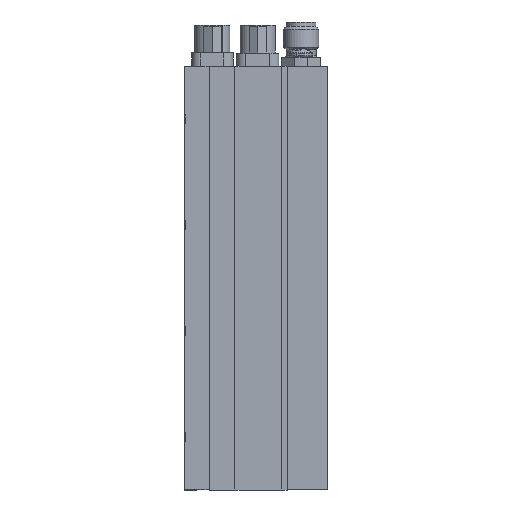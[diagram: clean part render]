
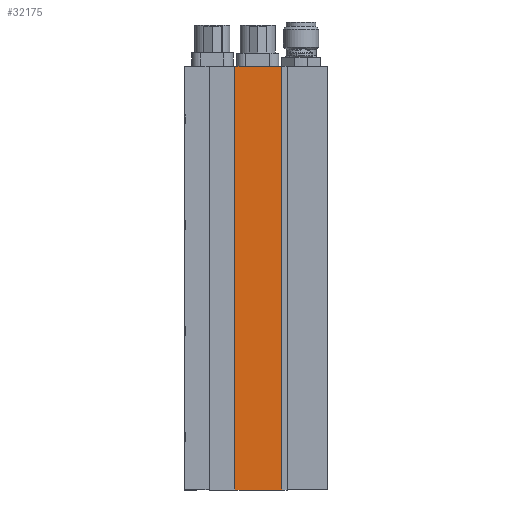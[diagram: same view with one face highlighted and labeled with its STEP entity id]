
A CAD part, left-side view. The second image highlights one B-rep face of the part: STEP entity #32175.
In plain terms, the highlighted planar face has unit normal (-1, 0, 0).
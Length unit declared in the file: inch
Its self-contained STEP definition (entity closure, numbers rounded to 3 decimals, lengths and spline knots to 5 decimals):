
#1403 = LINE ( 'NONE', #48669, #18389 ) ;
#2455 = LINE ( 'NONE', #76217, #36441 ) ;
#2987 = LINE ( 'NONE', #78181, #19964 ) ;
#3748 = DIRECTION ( 'NONE',  ( 0., -1., 0. ) ) ;
#8670 = VERTEX_POINT ( 'NONE', #47715 ) ;
#9337 = LINE ( 'NONE', #90628, #45625 ) ;
#10450 = FACE_OUTER_BOUND ( 'NONE', #41457, .T. ) ;
#12377 = ORIENTED_EDGE ( 'NONE', *, *, #90022, .F. ) ;
#17575 = CARTESIAN_POINT ( 'NONE',  ( -1., 0., 1.5 ) ) ;
#18389 = VECTOR ( 'NONE', #27238, 39.37008 ) ;
#19674 = VERTEX_POINT ( 'NONE', #83702 ) ;
#19964 = VECTOR ( 'NONE', #85437, 39.37008 ) ;
#25488 = DIRECTION ( 'NONE',  ( 0., -1., 0. ) ) ;
#27238 = DIRECTION ( 'NONE',  ( 0., 0., 1. ) ) ;
#27941 = PLANE ( 'NONE',  #28585 ) ;
#28585 = AXIS2_PLACEMENT_3D ( 'NONE', #35179, #42401, #93187 ) ;
#29637 = EDGE_CURVE ( 'NONE', #8670, #19674, #2987, .T. ) ;
#32175 = ADVANCED_FACE ( 'NONE', ( #10450 ), #27941, .F. ) ;
#34162 = EDGE_CURVE ( 'NONE', #8670, #91993, #9337, .T. ) ;
#35179 = CARTESIAN_POINT ( 'NONE',  ( -1., 0.33, -1.5 ) ) ;
#36441 = VECTOR ( 'NONE', #25488, 39.37008 ) ;
#41457 = EDGE_LOOP ( 'NONE', ( #42453, #12377, #84235, #50062 ) ) ;
#42401 = DIRECTION ( 'NONE',  ( 1., 0., 0. ) ) ;
#42453 = ORIENTED_EDGE ( 'NONE', *, *, #62850, .T. ) ;
#45625 = VECTOR ( 'NONE', #3748, 39.37008 ) ;
#47715 = CARTESIAN_POINT ( 'NONE',  ( -1., 0.33, -1.5 ) ) ;
#48669 = CARTESIAN_POINT ( 'NONE',  ( -1., 0., -1.5 ) ) ;
#50062 = ORIENTED_EDGE ( 'NONE', *, *, #34162, .T. ) ;
#62850 = EDGE_CURVE ( 'NONE', #91993, #63291, #1403, .T. ) ;
#63291 = VERTEX_POINT ( 'NONE', #17575 ) ;
#76217 = CARTESIAN_POINT ( 'NONE',  ( -1., 0.33, 1.5 ) ) ;
#78181 = CARTESIAN_POINT ( 'NONE',  ( -1., 0.33, -1.5 ) ) ;
#83702 = CARTESIAN_POINT ( 'NONE',  ( -1., 0.33, 1.5 ) ) ;
#84235 = ORIENTED_EDGE ( 'NONE', *, *, #29637, .F. ) ;
#85437 = DIRECTION ( 'NONE',  ( 0., 0., 1. ) ) ;
#89266 = CARTESIAN_POINT ( 'NONE',  ( -1., 0., -1.5 ) ) ;
#90022 = EDGE_CURVE ( 'NONE', #19674, #63291, #2455, .T. ) ;
#90628 = CARTESIAN_POINT ( 'NONE',  ( -1., 0.33, -1.5 ) ) ;
#91993 = VERTEX_POINT ( 'NONE', #89266 ) ;
#93187 = DIRECTION ( 'NONE',  ( 0., 0., -1. ) ) ;
